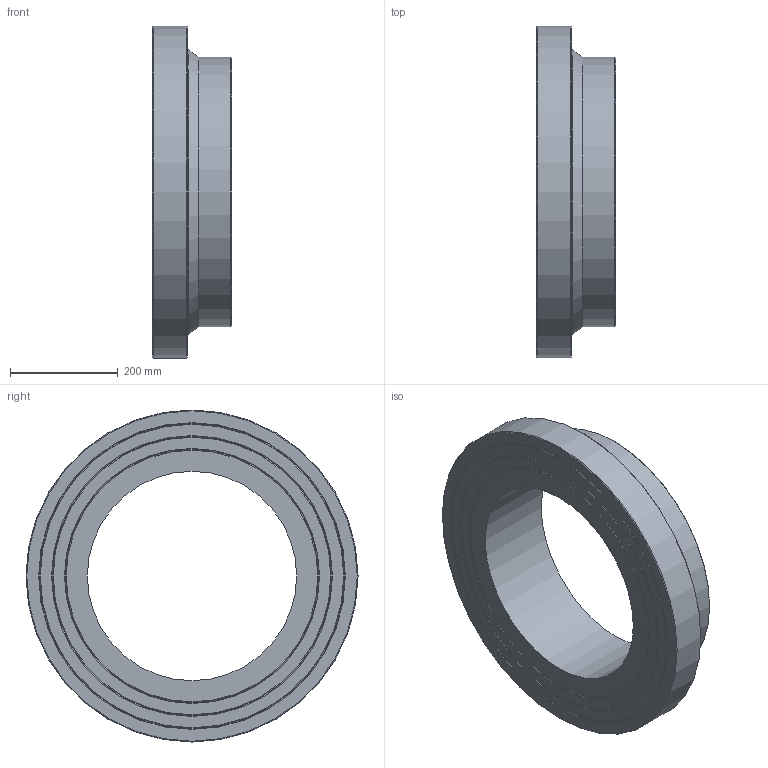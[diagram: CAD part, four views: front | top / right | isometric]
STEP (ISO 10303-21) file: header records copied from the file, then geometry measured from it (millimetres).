
FILE_DESCRIPTION(/* description */ ('Unknown'),/* implementation_level */ '2;1');
FILE_NAME(/* name */ 'CCP500G',/* time_stamp */ '2022-04-04T14:26:19+02:00',/* author */ ('Unknown'),/* organization */ ('Unknown'),/* preprocessor_version */ 'ST-DEVELOPER v18.1',/* originating_system */ 'Solid Edge',/* authorisation */ 'Unknown');
FILE_SCHEMA (('AUTOMOTIVE_DESIGN {1 0 10303 214 3 1 1}'));
Length unit declared in the file: millimetre
Products named in the file (1): CCP500G
Bounding box: 147 x 616 x 616 mm (x, y, z)
Volume: 18292948.1 mm3; surface area: 774565.8 mm2
Topology: 1 solids, 1 shells, 20 faces, 35 edges, 21 vertices
Faces by surface type: cone 10, plane 6, cylinder 3, torus 1
Full cylindrical faces by diameter (mm): 388.4 x1, 500 x1, 616 x1
Entity records: 438 total; most frequent: DIRECTION 82, CARTESIAN_POINT 61, AXIS2_PLACEMENT_3D 41, ORIENTED_EDGE 40, EDGE_LOOP 40, FACE_BOUND 40, EDGE_CURVE 20, VERTEX_POINT 20
